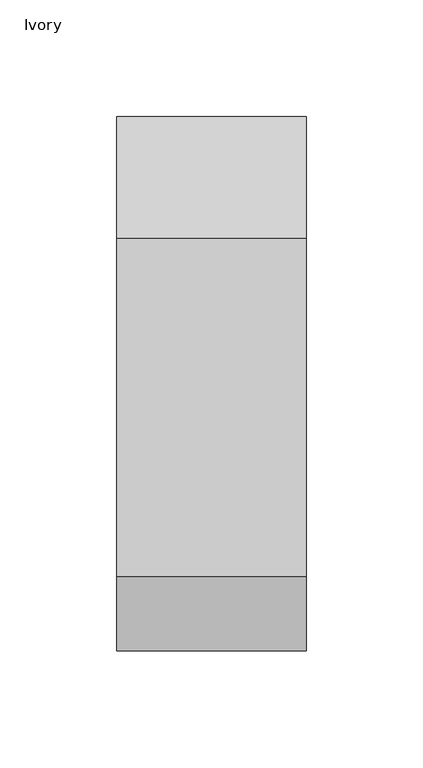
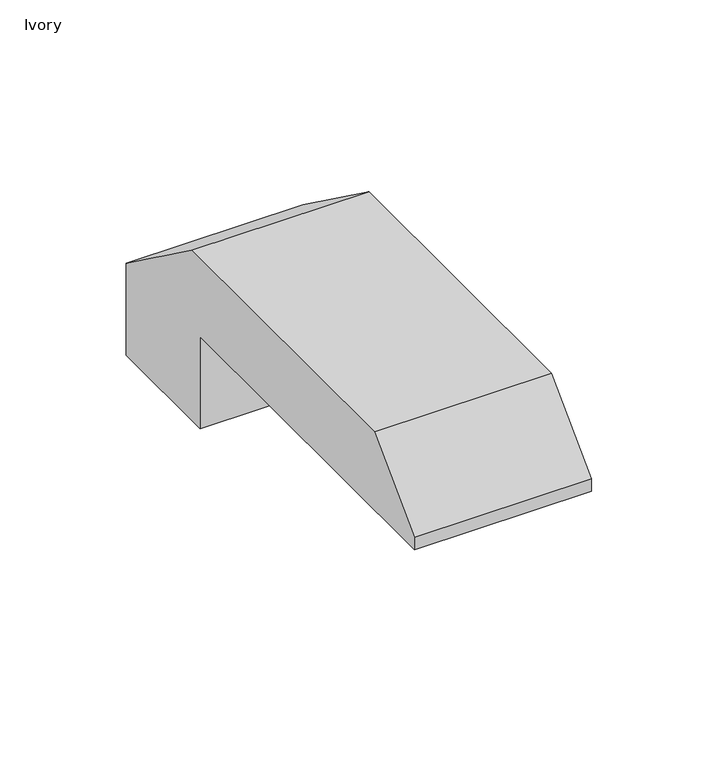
"""IFC4 building model written with IfcOpenShell, lengths in millimetres: proxy geometry, Transition_Fitting-5500_Series-Wiremold-400_800_2300_PN03_PN05_PN10 : Ivory."""

from ifc_helpers import new_model, si_unit, frame, origin, place, context, project, spatial, polyline, outline, extrude, source, transform, mapped, element, save


def ivory_1cf6c8a1(model_context):
    return source(origin(), model_context, "Body", "SweptSolid", [
        extrude(outline(polyline([(91.5718498, 37.846), (143.6624, 0.0), (143.6624, -44.45), (84.9376, -44.45), (84.9376, 0.0), (-84.9376, 0.0), (-84.9376, 6.096), (-53.1876, 37.846), (91.5718498, 37.846)])), frame((-40.4876, 0.0, 0.0), z_axis=(1.0, 0.0, 0.0), x_axis=(0.0, 1.0, 0.0)), (0.0, 0.0, 1.0), 80.9752),
    ])


if __name__ == "__main__":
    model = new_model("IFC4")
    model_context = context("Model", 3, world=origin())
    ifc_project = project(units=[si_unit("LENGTHUNIT", "METRE", prefix="MILLI")], contexts=[model_context])
    site = spatial("IfcSite", under=ifc_project)
    building = spatial("IfcBuilding", under=site)
    placement = place(None, origin())
    ivory_shape = ivory_1cf6c8a1(model_context)
    element("IfcBuildingElementProxy", 1, Name="Transition_Fitting-5500_Series-Wiremold-400_800_2300_PN03_PN05_PN10 : Ivory", ObjectType="Transition_Fitting-5500_Series-Wiremold-400_800_2300_PN03_PN05_PN10 : Ivory", at=placement, inside=building, context=model_context, shape_type="MappedRepresentation", body=[
        mapped(ivory_shape, transform((0.0, 0.0, 0.0), x_axis=(1.0, 0.0, 0.0), y_axis=(0.0, 1.0, 0.0), z_axis=(0.0, 0.0, 1.0))),
    ])
    save(model, "model.ifc")
